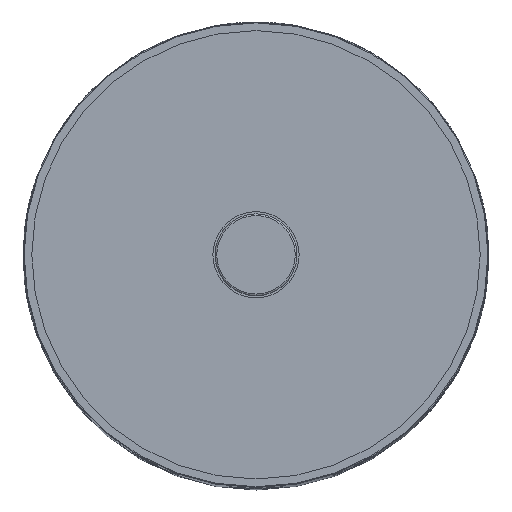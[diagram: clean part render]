
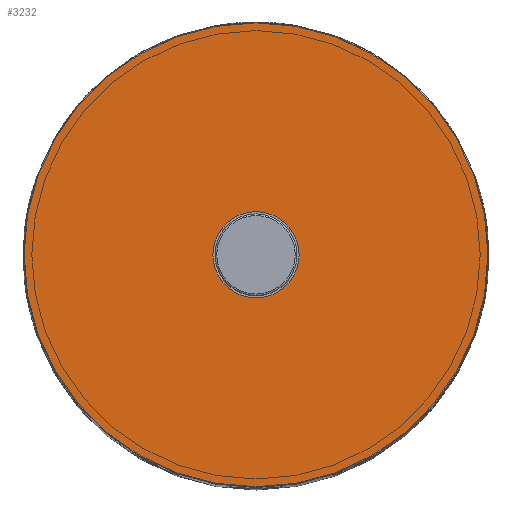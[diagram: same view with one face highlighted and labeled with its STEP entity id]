
A CAD part, top view. The second image highlights one B-rep face of the part: STEP entity #3232.
In plain terms, the highlighted planar face has unit normal (0, 0, 1).
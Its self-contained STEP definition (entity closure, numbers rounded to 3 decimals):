
#69=FACE_BOUND('',#733,.T.);
#104=PLANE('',#3501);
#493=FACE_OUTER_BOUND('',#732,.T.);
#732=EDGE_LOOP('',(#2871));
#733=EDGE_LOOP('',(#2872));
#1285=CIRCLE('',#3487,5.);
#1293=CIRCLE('',#3499,26.9);
#1544=VERTEX_POINT('',#9799);
#1551=VERTEX_POINT('',#9820);
#1985=EDGE_CURVE('',#1544,#1544,#1285,.T.);
#1995=EDGE_CURVE('',#1551,#1551,#1293,.T.);
#2871=ORIENTED_EDGE('',*,*,#1995,.F.);
#2872=ORIENTED_EDGE('',*,*,#1985,.T.);
#3232=ADVANCED_FACE('',(#493,#69),#104,.T.);
#3487=AXIS2_PLACEMENT_3D('',#9800,#4141,#4142);
#3499=AXIS2_PLACEMENT_3D('',#9821,#4167,#4168);
#3501=AXIS2_PLACEMENT_3D('',#9823,#4171,#4172);
#4141=DIRECTION('center_axis',(0.,0.,-1.));
#4142=DIRECTION('ref_axis',(-1.,0.,0.));
#4167=DIRECTION('center_axis',(0.,0.,-1.));
#4168=DIRECTION('ref_axis',(-1.,0.,0.));
#4171=DIRECTION('center_axis',(0.,0.,1.));
#4172=DIRECTION('ref_axis',(-1.,0.,0.));
#9799=CARTESIAN_POINT('',(5.,0.,158.5));
#9800=CARTESIAN_POINT('Origin',(0.,0.,158.5));
#9820=CARTESIAN_POINT('',(-26.9,0.,158.5));
#9821=CARTESIAN_POINT('Origin',(0.,0.,158.5));
#9823=CARTESIAN_POINT('Origin',(0.,0.,158.5));
